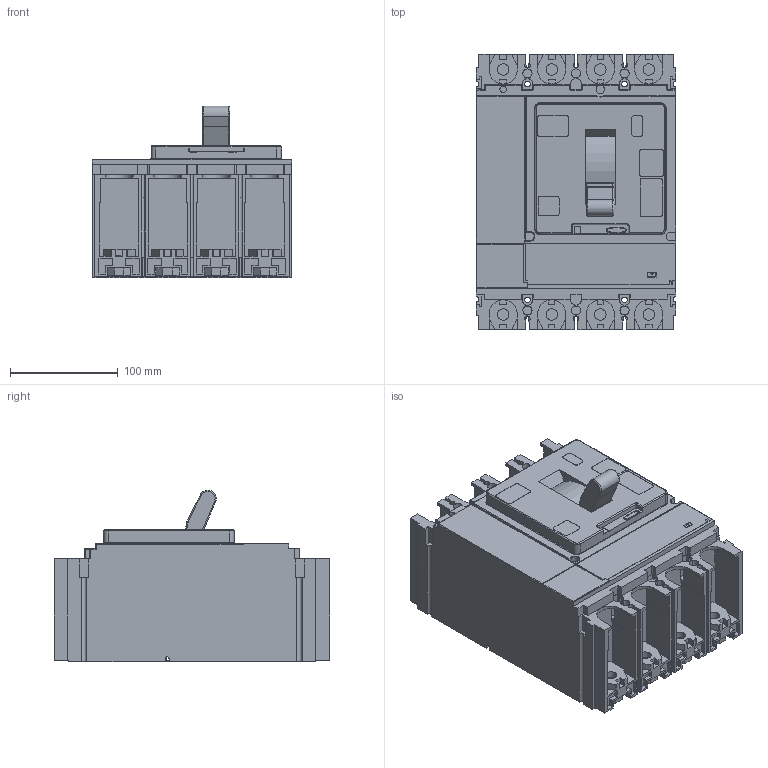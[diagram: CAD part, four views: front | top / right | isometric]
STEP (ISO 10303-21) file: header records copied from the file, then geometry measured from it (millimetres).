
FILE_DESCRIPTION((''),'2;1');
FILE_NAME('C40F44V400-3D_ASM','2021-06-23T12:05:43',('SESA530330'),('Schneider-Electric'),'CREO PARAMETRIC BY PTC INC, 2019164','CREO PARAMETRIC BY PTC INC, 2019164','');
FILE_SCHEMA(('CONFIG_CONTROL_DESIGN'));
Length unit declared in the file: millimetre
Products named in the file (2): C40F44V400; C40F44V400-3D_ASM
Assembly tree (1 placements, depth 2):
  C40F44V400-3D_ASM
    C40F44V400
Bounding box: 184.72 x 255.01 x 159.06 mm (x, y, z)
Volume: 4430996.7 mm3; surface area: 291924.9 mm2
Topology: 1 solids, 1 shells, 1293 faces, 3637 edges, 2372 vertices
Faces by surface type: plane 917, cylinder 319, torus 24, sphere 15, bspline 13, extrusion 5
Entity records: 42749 total; most frequent: CARTESIAN_POINT 8840, ORIENTED_EDGE 7272, DIRECTION 6805, EDGE_CURVE 3636, VECTOR 2833, LINE 2828, VERTEX_POINT 2372, AXIS2_PLACEMENT_3D 1986
